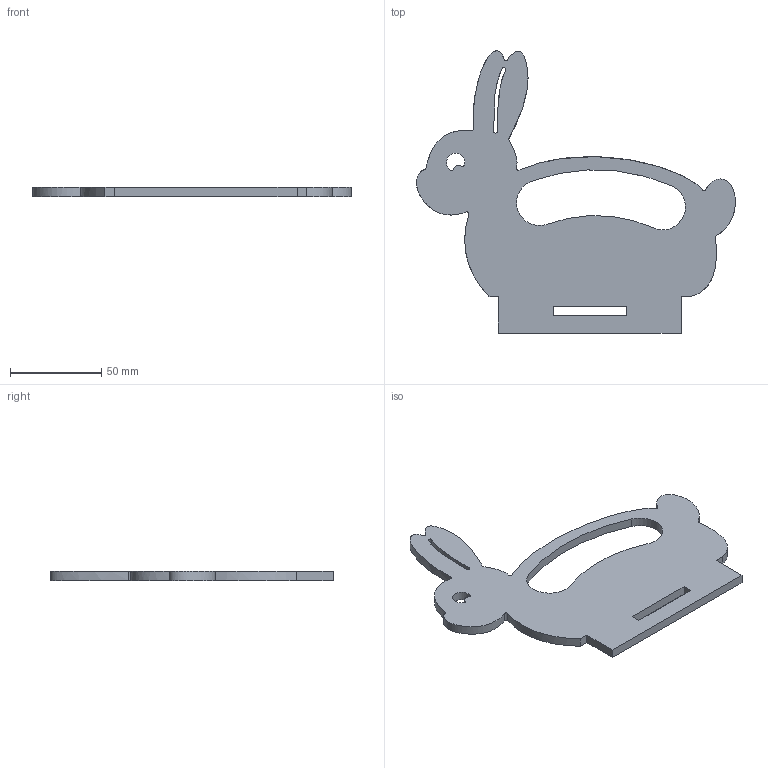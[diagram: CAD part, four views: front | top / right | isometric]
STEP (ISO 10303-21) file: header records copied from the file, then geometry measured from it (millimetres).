
FILE_DESCRIPTION(/* description */ (''),/* implementation_level */ '2;1');
FILE_NAME(/* name */ 'Z:\CAD Files\Development\Workspace\Easter Sale 24\EEH- Bunny Handle.stp',/* time_stamp */ '2024-02-29T10:32:47+11:00',/* author */ ('Tyler'),/* organization */ (''),/* preprocessor_version */ 'ST-DEVELOPER v17',/* originating_system */ 'Autodesk Inventor 2019',/* authorisation */ '');
FILE_SCHEMA (('AUTOMOTIVE_DESIGN { 1 0 10303 214 3 1 1 }'));
Length unit declared in the file: millimetre
Products named in the file (1): EEH- Bunny Handle
Bounding box: 174.26 x 154.32 x 5 mm (x, y, z)
Volume: 58982.8 mm3; surface area: 28744.5 mm2
Topology: 1 solids, 1 shells, 39 faces, 111 edges, 74 vertices
Faces by surface type: cylinder 17, plane 11, bspline 11
Entity records: 1454 total; most frequent: CARTESIAN_POINT 376, ORIENTED_EDGE 222, DIRECTION 181, EDGE_CURVE 111, VERTEX_POINT 74, AXIS2_PLACEMENT_3D 63, LINE 55, VECTOR 55
